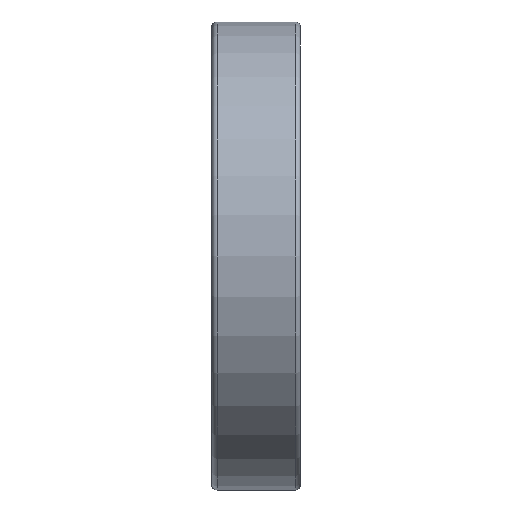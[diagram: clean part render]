
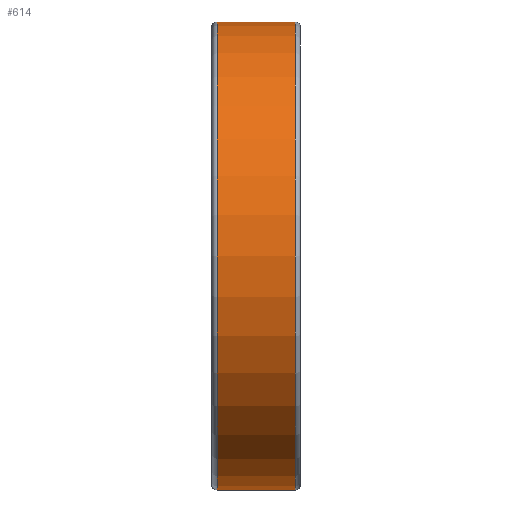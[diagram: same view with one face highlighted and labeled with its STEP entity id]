
A CAD part, front view. The second image highlights one B-rep face of the part: STEP entity #614.
In plain terms, the highlighted cylindrical face has radius 47.5 mm (diameter 95 mm), a full revolution.
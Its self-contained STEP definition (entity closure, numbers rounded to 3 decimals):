
#179=CYLINDRICAL_SURFACE('',#974,47.5);
#295=EDGE_LOOP('',(#423));
#296=EDGE_LOOP('',(#424));
#423=ORIENTED_EDGE('',*,*,#495,.F.);
#424=ORIENTED_EDGE('',*,*,#493,.T.);
#493=EDGE_CURVE('',#893,#893,#513,.T.);
#495=EDGE_CURVE('',#895,#895,#515,.T.);
#513=CIRCLE('',#970,47.5);
#515=CIRCLE('',#973,47.5);
#614=ADVANCED_FACE('',(#779,#780),#179,.T.);
#779=FACE_BOUND('',#295,.T.);
#780=FACE_BOUND('',#296,.T.);
#893=VERTEX_POINT('',#2082);
#895=VERTEX_POINT('',#2087);
#970=AXIS2_PLACEMENT_3D('',#2081,#1110,#1111);
#973=AXIS2_PLACEMENT_3D('',#2086,#1116,#1117);
#974=AXIS2_PLACEMENT_3D('',#2088,#1118,#1119);
#1110=DIRECTION('',(1.,0.,0.));
#1111=DIRECTION('',(0.,0.,-1.));
#1116=DIRECTION('',(1.,0.,0.));
#1117=DIRECTION('',(0.,0.,-1.));
#1118=DIRECTION('',(1.,0.,0.));
#1119=DIRECTION('',(0.,0.,-1.));
#2081=CARTESIAN_POINT('',(-7.9,0.,0.));
#2082=CARTESIAN_POINT('',(-7.9,0.,-47.5));
#2086=CARTESIAN_POINT('',(8.,0.,0.));
#2087=CARTESIAN_POINT('',(8.,0.,-47.5));
#2088=CARTESIAN_POINT('',(-7.9,0.,0.));
